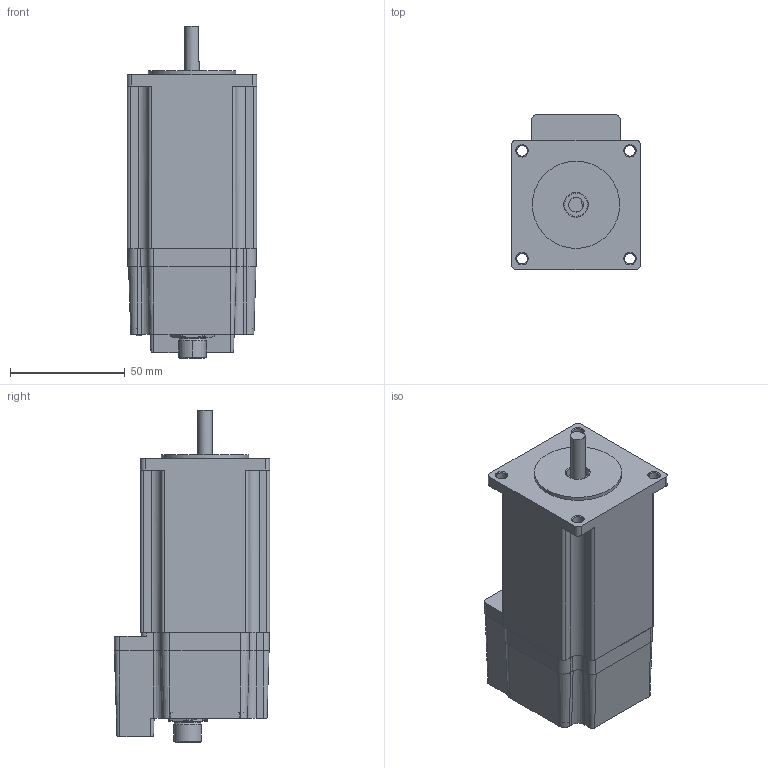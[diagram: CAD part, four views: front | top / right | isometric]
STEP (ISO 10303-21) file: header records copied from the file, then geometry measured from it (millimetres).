
FILE_DESCRIPTION(/* description */ ('Alibre Inc.'),/* implementation_level */ '2;1');
FILE_NAME(/* name */ 'export0',/* time_stamp */ '2016-07-22T11:11:32-04:00',/* author */ (''),/* organization */ (''),/* preprocessor_version */ 'ST-DEVELOPER v14',/* originating_system */ 'Alibre',/* authorisation */ '');
FILE_SCHEMA (('CONFIG_CONTROL_DESIGN'));
Length unit declared in the file: centimetre
Products named in the file (1): ID_1
Bounding box: 56.4 x 67.82 x 144.93 mm (x, y, z)
Volume: 336066.1 mm3; surface area: 41878.5 mm2
Topology: 3 solids, 20 shells, 557 faces, 1293 edges, 834 vertices
Faces by surface type: plane 218, cylinder 195, bspline 64, cone 48, torus 28, sphere 4
Full cylindrical faces by diameter (mm): 1.1 x8, 2.156 x4, 2.87 x4, 2.92 x2, 3.556 x4, 4.6 x4, 5.44 x4, 6.35 x1, 7.938 x1, 8 x2, 10 x1, 10.795 x2, 12.7 x2, 26 x2, 38.1 x1
Entity records: 16186 total; most frequent: CARTESIAN_POINT 4270, ORIENTED_EDGE 2416, DIRECTION 2229, EDGE_CURVE 1208, AXIS2_PLACEMENT_3D 952, VERTEX_POINT 809, EDGE_LOOP 695, FACE_BOUND 695
